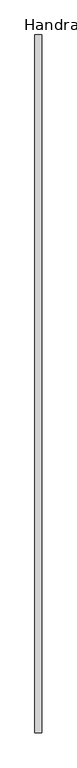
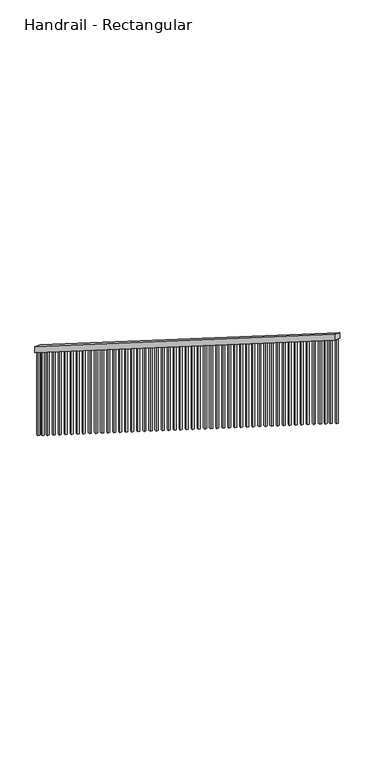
"""IFC4 building model written with IfcOpenShell, lengths in millimetres: railing geometry, Handrail - Rectangular."""

from ifc_helpers import new_model, si_unit, frame, origin, place, context, project, spatial, polyline, outline, extrude, source, transform, mapped, element, save


def handrail_rectangular_e5931e99(model_context):
    return source(origin(), model_context, "Body", "SweptSolid", [
        extrude(outline(polyline([(56940.686508, -2261.9368421), (56940.686508, -2322.0204219), (51911.486508, 854.3164202), (51911.486508, 914.4), (56940.686508, -2261.9368421)])), frame((3464.8480231, 0.0, 0.0), z_axis=(1.0, 0.0, 0.0), x_axis=(0.0, 1.0, 0.0)), (0.0, 0.0, 1.0), 50.8),
        extrude(outline(polyline([(51930.536508, -6.0157895), (51911.486508, -6.0157895), (51911.486508, 854.3164202), (51930.536508, 842.2848412), (51930.536508, -6.0157895)])), frame((3480.7230231, 0.0, 0.0), z_axis=(1.0, 0.0, 0.0), x_axis=(0.0, 1.0, 0.0)), (0.0, 0.0, 1.0), 19.05),
        extrude(outline(polyline([(52032.136508, -70.1842105), (52013.086508, -70.1842105), (52013.086508, 790.1479991), (52032.136508, 778.1164202), (52032.136508, -70.1842105)])), frame((3480.7230231, 0.0, 0.0), z_axis=(1.0, 0.0, 0.0), x_axis=(0.0, 1.0, 0.0)), (0.0, 0.0, 1.0), 19.05),
        extrude(outline(polyline([(52111.511508, -120.3157895), (52092.461508, -120.3157895), (52092.461508, 740.0164202), (52111.511508, 727.9848412), (52111.511508, -120.3157895)])), frame((3480.7230231, 0.0, 0.0), z_axis=(1.0, 0.0, 0.0), x_axis=(0.0, 1.0, 0.0)), (0.0, 0.0, 1.0), 19.05),
        extrude(outline(polyline([(52209.936508, -182.4789474), (52190.886508, -182.4789474), (52190.886508, 677.8532623), (52209.936508, 665.8216833), (52209.936508, -182.4789474)])), frame((3480.7230231, 0.0, 0.0), z_axis=(1.0, 0.0, 0.0), x_axis=(0.0, 1.0, 0.0)), (0.0, 0.0, 1.0), 19.05),
        extrude(outline(polyline([(52311.536508, -246.6473684), (52292.486508, -246.6473684), (52292.486508, 613.6848412), (52311.536508, 601.6532623), (52311.536508, -246.6473684)])), frame((3480.7230231, 0.0, 0.0), z_axis=(1.0, 0.0, 0.0), x_axis=(0.0, 1.0, 0.0)), (0.0, 0.0, 1.0), 19.05),
        extrude(outline(polyline([(52413.136508, -310.8157895), (52394.086508, -310.8157895), (52394.086508, 549.5164202), (52413.136508, 537.4848412), (52413.136508, -310.8157895)])), frame((3480.7230231, 0.0, 0.0), z_axis=(1.0, 0.0, 0.0), x_axis=(0.0, 1.0, 0.0)), (0.0, 0.0, 1.0), 19.05),
        extrude(outline(polyline([(52514.736508, -374.9842105), (52495.686508, -374.9842105), (52495.686508, 485.3479991), (52514.736508, 473.3164202), (52514.736508, -374.9842105)])), frame((3480.7230231, 0.0, 0.0), z_axis=(1.0, 0.0, 0.0), x_axis=(0.0, 1.0, 0.0)), (0.0, 0.0, 1.0), 19.05),
        extrude(outline(polyline([(52616.336508, -439.1526316), (52597.286508, -439.1526316), (52597.286508, 421.1795781), (52616.336508, 409.1479991), (52616.336508, -439.1526316)])), frame((3480.7230231, 0.0, 0.0), z_axis=(1.0, 0.0, 0.0), x_axis=(0.0, 1.0, 0.0)), (0.0, 0.0, 1.0), 19.05),
        extrude(outline(polyline([(52717.936508, -503.3210526), (52698.886508, -503.3210526), (52698.886508, 357.011157), (52717.936508, 344.9795781), (52717.936508, -503.3210526)])), frame((3480.7230231, 0.0, 0.0), z_axis=(1.0, 0.0, 0.0), x_axis=(0.0, 1.0, 0.0)), (0.0, 0.0, 1.0), 19.05),
        extrude(outline(polyline([(52819.536508, -567.4894737), (52800.486508, -567.4894737), (52800.486508, 292.842736), (52819.536508, 280.811157), (52819.536508, -567.4894737)])), frame((3480.7230231, 0.0, 0.0), z_axis=(1.0, 0.0, 0.0), x_axis=(0.0, 1.0, 0.0)), (0.0, 0.0, 1.0), 19.05),
        extrude(outline(polyline([(52921.136508, -631.6578947), (52902.086508, -631.6578947), (52902.086508, 228.6743149), (52921.136508, 216.642736), (52921.136508, -631.6578947)])), frame((3480.7230231, 0.0, 0.0), z_axis=(1.0, 0.0, 0.0), x_axis=(0.0, 1.0, 0.0)), (0.0, 0.0, 1.0), 19.05),
        extrude(outline(polyline([(53022.736508, -695.8263158), (53003.686508, -695.8263158), (53003.686508, 164.5058939), (53022.736508, 152.4743149), (53022.736508, -695.8263158)])), frame((3480.7230231, 0.0, 0.0), z_axis=(1.0, 0.0, 0.0), x_axis=(0.0, 1.0, 0.0)), (0.0, 0.0, 1.0), 19.05),
        extrude(outline(polyline([(53124.336508, -759.9947368), (53105.286508, -759.9947368), (53105.286508, 100.3374728), (53124.336508, 88.3058939), (53124.336508, -759.9947368)])), frame((3480.7230231, 0.0, 0.0), z_axis=(1.0, 0.0, 0.0), x_axis=(0.0, 1.0, 0.0)), (0.0, 0.0, 1.0), 19.05),
        extrude(outline(polyline([(53225.936508, -824.1631579), (53206.886508, -824.1631579), (53206.886508, 36.1690517), (53225.936508, 24.1374728), (53225.936508, -824.1631579)])), frame((3480.7230231, 0.0, 0.0), z_axis=(1.0, 0.0, 0.0), x_axis=(0.0, 1.0, 0.0)), (0.0, 0.0, 1.0), 19.05),
        extrude(outline(polyline([(53327.536508, -888.3315789), (53308.486508, -888.3315789), (53308.486508, -27.9993693), (53327.536508, -40.0309483), (53327.536508, -888.3315789)])), frame((3480.7230231, 0.0, 0.0), z_axis=(1.0, 0.0, 0.0), x_axis=(0.0, 1.0, 0.0)), (0.0, 0.0, 1.0), 19.05),
        extrude(outline(polyline([(53429.136508, -952.5), (53410.086508, -952.5), (53410.086508, -92.1677904), (53429.136508, -104.1993693), (53429.136508, -952.5)])), frame((3480.7230231, 0.0, 0.0), z_axis=(1.0, 0.0, 0.0), x_axis=(0.0, 1.0, 0.0)), (0.0, 0.0, 1.0), 19.05),
        extrude(outline(polyline([(53530.736508, -1016.6684211), (53511.686508, -1016.6684211), (53511.686508, -156.3362114), (53530.736508, -168.3677904), (53530.736508, -1016.6684211)])), frame((3480.7230231, 0.0, 0.0), z_axis=(1.0, 0.0, 0.0), x_axis=(0.0, 1.0, 0.0)), (0.0, 0.0, 1.0), 19.05),
        extrude(outline(polyline([(53632.336508, -1080.8368421), (53613.286508, -1080.8368421), (53613.286508, -220.5046325), (53632.336508, -232.5362114), (53632.336508, -1080.8368421)])), frame((3480.7230231, 0.0, 0.0), z_axis=(1.0, 0.0, 0.0), x_axis=(0.0, 1.0, 0.0)), (0.0, 0.0, 1.0), 19.05),
        extrude(outline(polyline([(53733.936508, -1145.0052632), (53714.886508, -1145.0052632), (53714.886508, -284.6730535), (53733.936508, -296.7046325), (53733.936508, -1145.0052632)])), frame((3480.7230231, 0.0, 0.0), z_axis=(1.0, 0.0, 0.0), x_axis=(0.0, 1.0, 0.0)), (0.0, 0.0, 1.0), 19.05),
        extrude(outline(polyline([(53835.536508, -1209.1736842), (53816.486508, -1209.1736842), (53816.486508, -348.8414746), (53835.536508, -360.8730535), (53835.536508, -1209.1736842)])), frame((3480.7230231, 0.0, 0.0), z_axis=(1.0, 0.0, 0.0), x_axis=(0.0, 1.0, 0.0)), (0.0, 0.0, 1.0), 19.05),
        extrude(outline(polyline([(53937.136508, -1273.3421053), (53918.086508, -1273.3421053), (53918.086508, -413.0098956), (53937.136508, -425.0414746), (53937.136508, -1273.3421053)])), frame((3480.7230231, 0.0, 0.0), z_axis=(1.0, 0.0, 0.0), x_axis=(0.0, 1.0, 0.0)), (0.0, 0.0, 1.0), 19.05),
        extrude(outline(polyline([(54038.736508, -1337.5105263), (54019.686508, -1337.5105263), (54019.686508, -477.1783167), (54038.736508, -489.2098956), (54038.736508, -1337.5105263)])), frame((3480.7230231, 0.0, 0.0), z_axis=(1.0, 0.0, 0.0), x_axis=(0.0, 1.0, 0.0)), (0.0, 0.0, 1.0), 19.05),
        extrude(outline(polyline([(54140.336508, -1401.6789474), (54121.286508, -1401.6789474), (54121.286508, -541.3467377), (54140.336508, -553.3783167), (54140.336508, -1401.6789474)])), frame((3480.7230231, 0.0, 0.0), z_axis=(1.0, 0.0, 0.0), x_axis=(0.0, 1.0, 0.0)), (0.0, 0.0, 1.0), 19.05),
        extrude(outline(polyline([(54241.936508, -1465.8473684), (54222.886508, -1465.8473684), (54222.886508, -605.5151588), (54241.936508, -617.5467377), (54241.936508, -1465.8473684)])), frame((3480.7230231, 0.0, 0.0), z_axis=(1.0, 0.0, 0.0), x_axis=(0.0, 1.0, 0.0)), (0.0, 0.0, 1.0), 19.05),
        extrude(outline(polyline([(54343.536508, -1530.0157895), (54324.486508, -1530.0157895), (54324.486508, -669.6835798), (54343.536508, -681.7151588), (54343.536508, -1530.0157895)])), frame((3480.7230231, 0.0, 0.0), z_axis=(1.0, 0.0, 0.0), x_axis=(0.0, 1.0, 0.0)), (0.0, 0.0, 1.0), 19.05),
        extrude(outline(polyline([(54445.136508, -1594.1842105), (54426.086508, -1594.1842105), (54426.086508, -733.8520009), (54445.136508, -745.8835798), (54445.136508, -1594.1842105)])), frame((3480.7230231, 0.0, 0.0), z_axis=(1.0, 0.0, 0.0), x_axis=(0.0, 1.0, 0.0)), (0.0, 0.0, 1.0), 19.05),
        extrude(outline(polyline([(54546.736508, -1658.3526316), (54527.686508, -1658.3526316), (54527.686508, -798.0204219), (54546.736508, -810.0520009), (54546.736508, -1658.3526316)])), frame((3480.7230231, 0.0, 0.0), z_axis=(1.0, 0.0, 0.0), x_axis=(0.0, 1.0, 0.0)), (0.0, 0.0, 1.0), 19.05),
        extrude(outline(polyline([(54648.336508, -1722.5210526), (54629.286508, -1722.5210526), (54629.286508, -862.188843), (54648.336508, -874.2204219), (54648.336508, -1722.5210526)])), frame((3480.7230231, 0.0, 0.0), z_axis=(1.0, 0.0, 0.0), x_axis=(0.0, 1.0, 0.0)), (0.0, 0.0, 1.0), 19.05),
        extrude(outline(polyline([(54749.936508, -1786.6894737), (54730.886508, -1786.6894737), (54730.886508, -926.357264), (54749.936508, -938.388843), (54749.936508, -1786.6894737)])), frame((3480.7230231, 0.0, 0.0), z_axis=(1.0, 0.0, 0.0), x_axis=(0.0, 1.0, 0.0)), (0.0, 0.0, 1.0), 19.05),
        extrude(outline(polyline([(54851.536508, -1850.8578947), (54832.486508, -1850.8578947), (54832.486508, -990.5256851), (54851.536508, -1002.557264), (54851.536508, -1850.8578947)])), frame((3480.7230231, 0.0, 0.0), z_axis=(1.0, 0.0, 0.0), x_axis=(0.0, 1.0, 0.0)), (0.0, 0.0, 1.0), 19.05),
        extrude(outline(polyline([(54953.136508, -1915.0263158), (54934.086508, -1915.0263158), (54934.086508, -1054.6941061), (54953.136508, -1066.7256851), (54953.136508, -1915.0263158)])), frame((3480.7230231, 0.0, 0.0), z_axis=(1.0, 0.0, 0.0), x_axis=(0.0, 1.0, 0.0)), (0.0, 0.0, 1.0), 19.05),
        extrude(outline(polyline([(55054.736508, -1979.1947368), (55035.686508, -1979.1947368), (55035.686508, -1118.8625272), (55054.736508, -1130.8941061), (55054.736508, -1979.1947368)])), frame((3480.7230231, 0.0, 0.0), z_axis=(1.0, 0.0, 0.0), x_axis=(0.0, 1.0, 0.0)), (0.0, 0.0, 1.0), 19.05),
        extrude(outline(polyline([(55156.336508, -2043.3631579), (55137.286508, -2043.3631579), (55137.286508, -1183.0309483), (55156.336508, -1195.0625272), (55156.336508, -2043.3631579)])), frame((3480.7230231, 0.0, 0.0), z_axis=(1.0, 0.0, 0.0), x_axis=(0.0, 1.0, 0.0)), (0.0, 0.0, 1.0), 19.05),
        extrude(outline(polyline([(55257.936508, -2107.5315789), (55238.886508, -2107.5315789), (55238.886508, -1247.1993693), (55257.936508, -1259.2309483), (55257.936508, -2107.5315789)])), frame((3480.7230231, 0.0, 0.0), z_axis=(1.0, 0.0, 0.0), x_axis=(0.0, 1.0, 0.0)), (0.0, 0.0, 1.0), 19.05),
        extrude(outline(polyline([(55359.536508, -2171.7), (55340.486508, -2171.7), (55340.486508, -1311.3677904), (55359.536508, -1323.3993693), (55359.536508, -2171.7)])), frame((3480.7230231, 0.0, 0.0), z_axis=(1.0, 0.0, 0.0), x_axis=(0.0, 1.0, 0.0)), (0.0, 0.0, 1.0), 19.05),
        extrude(outline(polyline([(55461.136508, -2235.8684211), (55442.086508, -2235.8684211), (55442.086508, -1375.5362114), (55461.136508, -1387.5677904), (55461.136508, -2235.8684211)])), frame((3480.7230231, 0.0, 0.0), z_axis=(1.0, 0.0, 0.0), x_axis=(0.0, 1.0, 0.0)), (0.0, 0.0, 1.0), 19.05),
        extrude(outline(polyline([(55562.736508, -2300.0368421), (55543.686508, -2300.0368421), (55543.686508, -1439.7046325), (55562.736508, -1451.7362114), (55562.736508, -2300.0368421)])), frame((3480.7230231, 0.0, 0.0), z_axis=(1.0, 0.0, 0.0), x_axis=(0.0, 1.0, 0.0)), (0.0, 0.0, 1.0), 19.05),
        extrude(outline(polyline([(55664.336508, -2364.2052632), (55645.286508, -2364.2052632), (55645.286508, -1503.8730535), (55664.336508, -1515.9046325), (55664.336508, -2364.2052632)])), frame((3480.7230231, 0.0, 0.0), z_axis=(1.0, 0.0, 0.0), x_axis=(0.0, 1.0, 0.0)), (0.0, 0.0, 1.0), 19.05),
        extrude(outline(polyline([(55765.936508, -2428.3736842), (55746.886508, -2428.3736842), (55746.886508, -1568.0414746), (55765.936508, -1580.0730535), (55765.936508, -2428.3736842)])), frame((3480.7230231, 0.0, 0.0), z_axis=(1.0, 0.0, 0.0), x_axis=(0.0, 1.0, 0.0)), (0.0, 0.0, 1.0), 19.05),
        extrude(outline(polyline([(55867.536508, -2492.5421053), (55848.486508, -2492.5421053), (55848.486508, -1632.2098956), (55867.536508, -1644.2414746), (55867.536508, -2492.5421053)])), frame((3480.7230231, 0.0, 0.0), z_axis=(1.0, 0.0, 0.0), x_axis=(0.0, 1.0, 0.0)), (0.0, 0.0, 1.0), 19.05),
        extrude(outline(polyline([(55969.136508, -2556.7105263), (55950.086508, -2556.7105263), (55950.086508, -1696.3783167), (55969.136508, -1708.4098956), (55969.136508, -2556.7105263)])), frame((3480.7230231, 0.0, 0.0), z_axis=(1.0, 0.0, 0.0), x_axis=(0.0, 1.0, 0.0)), (0.0, 0.0, 1.0), 19.05),
        extrude(outline(polyline([(56070.736508, -2620.8789474), (56051.686508, -2620.8789474), (56051.686508, -1760.5467377), (56070.736508, -1772.5783167), (56070.736508, -2620.8789474)])), frame((3480.7230231, 0.0, 0.0), z_axis=(1.0, 0.0, 0.0), x_axis=(0.0, 1.0, 0.0)), (0.0, 0.0, 1.0), 19.05),
        extrude(outline(polyline([(56172.336508, -2685.0473684), (56153.286508, -2685.0473684), (56153.286508, -1824.7151588), (56172.336508, -1836.7467377), (56172.336508, -2685.0473684)])), frame((3480.7230231, 0.0, 0.0), z_axis=(1.0, 0.0, 0.0), x_axis=(0.0, 1.0, 0.0)), (0.0, 0.0, 1.0), 19.05),
        extrude(outline(polyline([(56273.936508, -2749.2157895), (56254.886508, -2749.2157895), (56254.886508, -1888.8835798), (56273.936508, -1900.9151588), (56273.936508, -2749.2157895)])), frame((3480.7230231, 0.0, 0.0), z_axis=(1.0, 0.0, 0.0), x_axis=(0.0, 1.0, 0.0)), (0.0, 0.0, 1.0), 19.05),
        extrude(outline(polyline([(56375.536508, -2813.3842105), (56356.486508, -2813.3842105), (56356.486508, -1953.0520009), (56375.536508, -1965.0835798), (56375.536508, -2813.3842105)])), frame((3480.7230231, 0.0, 0.0), z_axis=(1.0, 0.0, 0.0), x_axis=(0.0, 1.0, 0.0)), (0.0, 0.0, 1.0), 19.05),
        extrude(outline(polyline([(56477.136508, -2877.5526316), (56458.086508, -2877.5526316), (56458.086508, -2017.2204219), (56477.136508, -2029.2520009), (56477.136508, -2877.5526316)])), frame((3480.7230231, 0.0, 0.0), z_axis=(1.0, 0.0, 0.0), x_axis=(0.0, 1.0, 0.0)), (0.0, 0.0, 1.0), 19.05),
        extrude(outline(polyline([(56578.736508, -2941.7210526), (56559.686508, -2941.7210526), (56559.686508, -2081.388843), (56578.736508, -2093.4204219), (56578.736508, -2941.7210526)])), frame((3480.7230231, 0.0, 0.0), z_axis=(1.0, 0.0, 0.0), x_axis=(0.0, 1.0, 0.0)), (0.0, 0.0, 1.0), 19.05),
        extrude(outline(polyline([(56680.336508, -3005.8894737), (56661.286508, -3005.8894737), (56661.286508, -2145.557264), (56680.336508, -2157.588843), (56680.336508, -3005.8894737)])), frame((3480.7230231, 0.0, 0.0), z_axis=(1.0, 0.0, 0.0), x_axis=(0.0, 1.0, 0.0)), (0.0, 0.0, 1.0), 19.05),
        extrude(outline(polyline([(56781.936508, -3070.0578947), (56762.886508, -3070.0578947), (56762.886508, -2209.7256851), (56781.936508, -2221.757264), (56781.936508, -3070.0578947)])), frame((3480.7230231, 0.0, 0.0), z_axis=(1.0, 0.0, 0.0), x_axis=(0.0, 1.0, 0.0)), (0.0, 0.0, 1.0), 19.05),
        extrude(outline(polyline([(56861.311508, -3120.1894737), (56842.261508, -3120.1894737), (56842.261508, -2259.857264), (56861.311508, -2271.888843), (56861.311508, -3120.1894737)])), frame((3480.7230231, 0.0, 0.0), z_axis=(1.0, 0.0, 0.0), x_axis=(0.0, 1.0, 0.0)), (0.0, 0.0, 1.0), 19.05),
        extrude(outline(polyline([(56940.686508, -3170.3210526), (56921.636508, -3170.3210526), (56921.636508, -2309.988843), (56940.686508, -2322.0204219), (56940.686508, -3170.3210526)])), frame((3480.7230231, 0.0, 0.0), z_axis=(1.0, 0.0, 0.0), x_axis=(0.0, 1.0, 0.0)), (0.0, 0.0, 1.0), 19.05),
    ])


if __name__ == "__main__":
    model = new_model("IFC4")
    model_context = context("Model", 3, world=origin())
    ifc_project = project(units=[si_unit("LENGTHUNIT", "METRE", prefix="MILLI")], contexts=[model_context])
    site = spatial("IfcSite", under=ifc_project)
    building = spatial("IfcBuilding", under=site)
    placement = place(None, origin())
    handrail_rectangular_shape = handrail_rectangular_e5931e99(model_context)
    element("IfcRailing", 1, ObjectType="Handrail - Rectangular", at=placement, inside=building, context=model_context, shape_type="MappedRepresentation", body=[
        mapped(handrail_rectangular_shape, transform((0.0, 0.0, 0.0), x_axis=(1.0, 0.0, 0.0), y_axis=(0.0, 1.0, 0.0), z_axis=(0.0, 0.0, 1.0))),
    ])
    save(model, "model.ifc")
